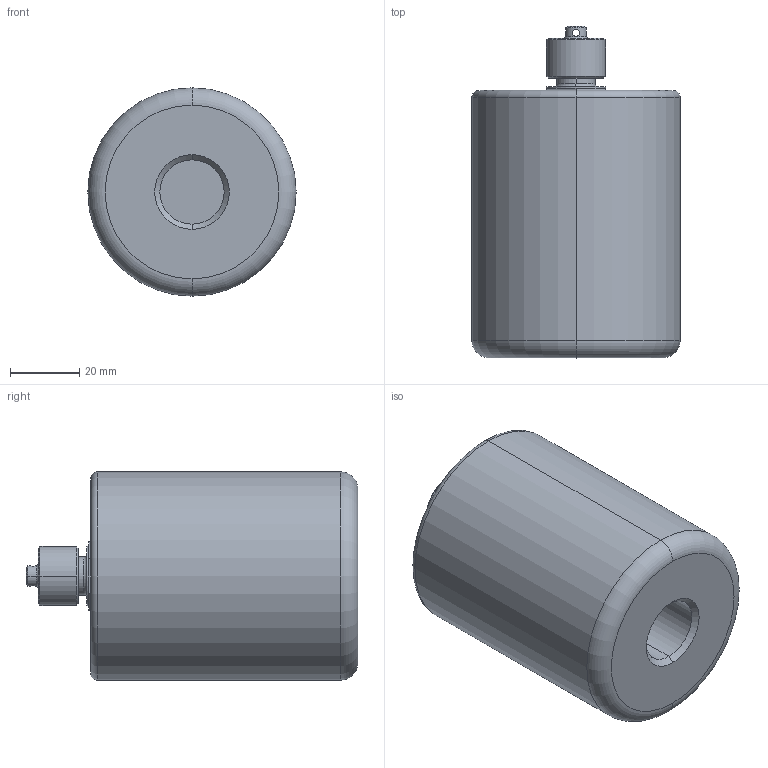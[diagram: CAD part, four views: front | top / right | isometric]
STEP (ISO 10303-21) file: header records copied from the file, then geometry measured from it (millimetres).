
FILE_DESCRIPTION (( 'STEP AP214' ), '1' );
FILE_NAME ('U000A01X1-PC.STEP', '2025-04-10T10:35:45', ( '' ), ( '' ), 'SwSTEP 2.0', 'SolidWorks 2024', '' );
FILE_SCHEMA (( 'AUTOMOTIVE_DESIGN' ));
Length unit declared in the file: millimetre
Products named in the file (1): U000A01X1-PC
Bounding box: 60 x 95.58 x 60 mm (x, y, z)
Volume: 205713.2 mm3; surface area: 30968.9 mm2
Topology: 6 solids, 7 shells, 162 faces, 342 edges, 198 vertices
Faces by surface type: cylinder 52, plane 42, torus 40, cone 28
Entity records: 6005 total; most frequent: DIRECTION 855, CARTESIAN_POINT 815, ORIENTED_EDGE 684, AXIS2_PLACEMENT_3D 370, EDGE_CURVE 342, CIRCLE 207, VERTEX_POINT 198, EDGE_LOOP 178
